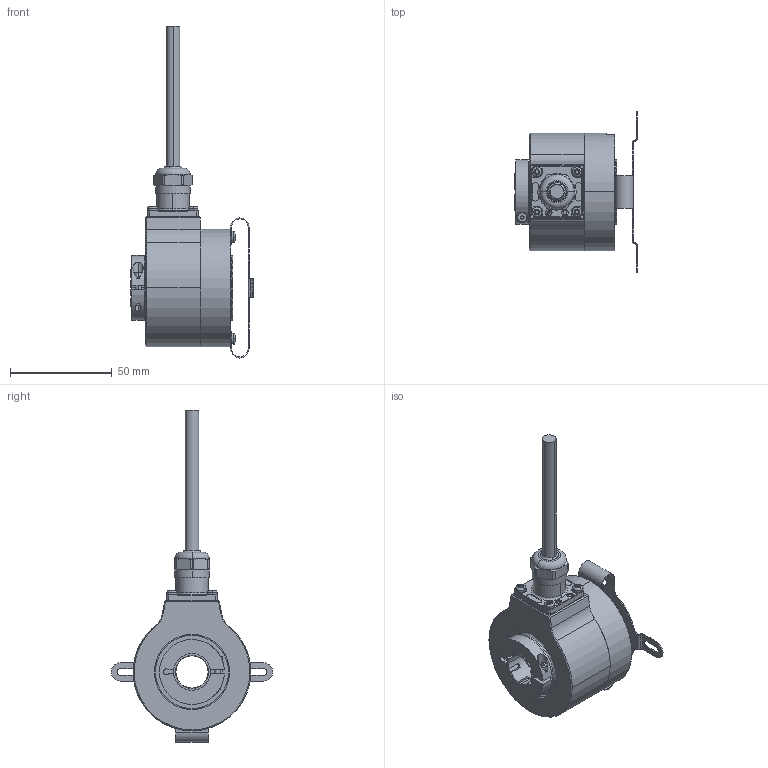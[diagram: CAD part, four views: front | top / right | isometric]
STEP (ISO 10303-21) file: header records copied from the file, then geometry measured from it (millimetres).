
FILE_DESCRIPTION (( 'STEP AP203' ), '1' );
FILE_NAME ('K58I.OXX.XXXXX.XC1654A.XXR31.XXXX.step', '2025-12-03T07:39:43', ( '' ), ( '' ), 'SwSTEP 2.0', 'SolidWorks 2021', '' );
FILE_SCHEMA (( 'CONFIG_CONTROL_DESIGN' ));
Length unit declared in the file: millimetre
Products named in the file (1): K58I.OXX.XXXXX.XC1654A.XXR31.XXXX
Bounding box: 60.2 x 79.4 x 163.5 mm (x, y, z)
Volume: 122325.5 mm3; surface area: 46602.3 mm2
Topology: 10 solids, 10 shells, 726 faces, 1840 edges, 1147 vertices
Faces by surface type: cylinder 330, plane 225, cone 72, bspline 48, torus 35, sphere 16
Entity records: 24430 total; most frequent: CARTESIAN_POINT 6942, DIRECTION 3717, ORIENTED_EDGE 3656, EDGE_CURVE 1828, AXIS2_PLACEMENT_3D 1446, VERTEX_POINT 1147, VECTOR 825, LINE 825
